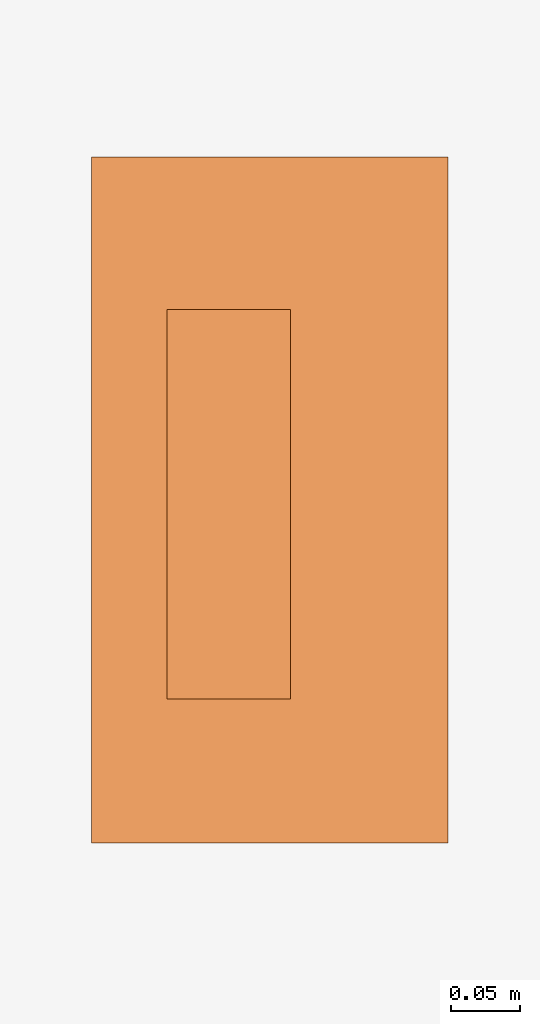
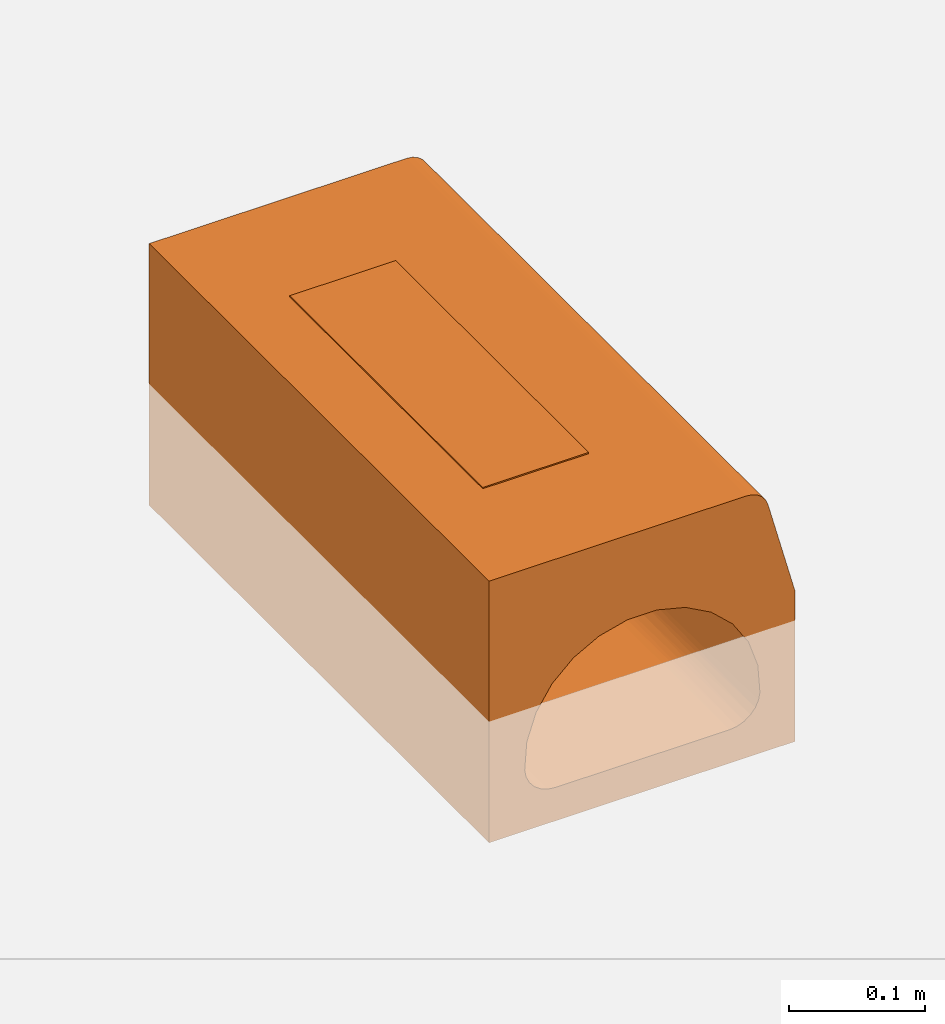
# One storey, part 2 of 2: 1 proxy.
"""IFC2X3 building model written with IfcOpenShell, lengths in millimetres."""

from ifc_helpers import new_model, entity, si_unit, converted_unit, direction, frame, origin, place, context, subcontext, project, spatial, faceted_brep, source, transform, mapped, material, material_list, element, save


model = new_model("IFC2X3")

# Units and contexts
model_context = context("Model", 3, precision=1e-06, world=origin(), true_north=direction((2.0, 6.12303176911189e-17, 1.0)))
context_of_model = context(None, 3, precision=1e-06, world=origin(), true_north=direction((2.0, 6.12303176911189e-17, 1.0)))
body_context = subcontext(model_context, "Body", "Model", "MODEL_VIEW")
ifc_project = project(units=[si_unit("LENGTHUNIT", "METRE", prefix="MILLI"), si_unit("AREAUNIT", "SQUARE_METRE", prefix="MILLI"), si_unit("VOLUMEUNIT", "CUBIC_METRE", prefix="MILLI"), converted_unit("PLANEANGLEUNIT", "DEGREE", entity("IfcRatioMeasure", 0.0174532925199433), si_unit("PLANEANGLEUNIT", "RADIAN"), dimensions=[0, 0, 0, 0, 0, 0, 0]), si_unit("TIMEUNIT", "SECOND")], contexts=[model_context, context_of_model])

# Site, building, storey
site_placement = place(None, origin())
site = spatial("IfcSite", under=ifc_project, at=site_placement, Name="Default", CompositionType="ELEMENT")
building_placement = place(site_placement, origin())
building = spatial("IfcBuilding", under=site, at=building_placement, CompositionType="ELEMENT")
storey_placement = place(building_placement, origin())
storey = spatial("IfcBuildingStorey", under=building, at=storey_placement, Name="Level 1", CompositionType="ELEMENT", Elevation=0.0)

# Proxy
ifc_material_1 = material(Name="ACO Polymer Concrete.")
ifc_material_2 = material(Name="Iron, Cast")
ifc_material_list = material_list([ifc_material_1, ifc_material_2])
shared_shape = source(origin(), body_context, "Body", "Brep", [
    faceted_brep([(-129.999990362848, 0.0, -110.0), (-98.5293847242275, 0.0, -61.8360012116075), (-99.7015120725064, 0.0, -55.3829147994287), (-95.7797163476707, 0.0, -67.7904558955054), (-97.9151044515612, 0.0, -30.5139849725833), (-129.999990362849, 0.0, 125.0), (-73.7383160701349, 0.0, -80.0), (-80.2446122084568, 0.0, -79.1727652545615), (130.000009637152, 0.0, -110.0), (-91.6274778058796, 0.0, -72.8673764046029), (-86.3368903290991, 0.0, -76.7437008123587), (-90.035161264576, 0.0, -6.85893438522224), (-76.5510258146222, 0.0, 14.1132618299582), (-58.3000609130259, 0.0, 31.1002333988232), (-36.4156487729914, 0.0, 43.0470919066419), (-12.2568081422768, 0.0, 49.2119392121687), (12.6762005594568, 0.0, 49.2119392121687), (88.6258776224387, 0.0, 125.0), (58.7194533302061, 0.0, 31.1002333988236), (106.978468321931, 0.0, 110.917561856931), (36.8350411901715, 0.0, 43.0470919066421), (80.6640046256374, 0.0, -79.1727652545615), (74.1577084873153, 0.0, -80.0), (92.0468702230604, 0.0, -72.8673764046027), (86.7562827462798, 0.0, -76.7437008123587), (96.1991087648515, 0.0, -67.7904558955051), (98.9487771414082, 0.0, -61.836001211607), (100.120904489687, 0.0, -55.382914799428), (130.000009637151, 0.0, 25.0), (98.3344968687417, 0.0, -30.5139849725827), (93.5434394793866, 0.0, 124.352590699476), (105.080360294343, 0.0, 115.499999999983), (76.9704182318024, 0.0, 14.1132618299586), (90.4545536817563, 0.0, -6.8589343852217), (102.060906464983, 0.0, 119.435028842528), (98.1258776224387, 0.0, 122.454482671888), (130.000009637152, 500.0, -110.0), (98.9487771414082, 500.0, -61.836001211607), (100.120904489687, 500.0, -55.382914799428), (130.000009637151, 500.0, 25.0), (96.1991087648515, 500.0, -67.7904558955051), (98.3344968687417, 500.0, -30.5139849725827), (74.1577084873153, 500.0, -80.0), (80.6640046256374, 500.0, -79.1727652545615), (92.0468702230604, 500.0, -72.8673764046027), (86.7562827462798, 500.0, -76.7437008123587), (-73.7383160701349, 500.0, -80.0), (-129.999990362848, 500.0, -110.0), (105.080360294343, 500.0, 115.499999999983), (106.978468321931, 500.0, 110.917561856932), (93.5434394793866, 500.0, 124.352590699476), (98.1258776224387, 500.0, 122.454482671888), (102.060906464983, 500.0, 119.435028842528), (58.7194533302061, 500.0, 31.1002333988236), (76.9704182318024, 500.0, 14.1132618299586), (36.8350411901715, 500.0, 43.0470919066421), (88.6258776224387, 500.0, 125.0), (90.4545536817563, 500.0, -6.8589343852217), (-80.2446122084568, 500.0, -79.1727652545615), (-91.6274778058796, 500.0, -72.8673764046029), (-86.3368903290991, 500.0, -76.7437008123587), (-95.7797163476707, 500.0, -67.7904558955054), (-98.5293847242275, 500.0, -61.8360012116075), (-99.7015120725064, 500.0, -55.3829147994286), (-97.9151044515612, 500.0, -30.5139849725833), (-129.999990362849, 500.0, 125.0), (-12.2568081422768, 500.0, 49.2119392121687), (12.6762005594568, 500.0, 49.2119392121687), (-76.5510258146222, 500.0, 14.1132618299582), (-90.035161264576, 500.0, -6.85893438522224), (-36.4156487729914, 500.0, 43.0470919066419), (-58.3000609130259, 500.0, 31.1002333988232), (88.6258776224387, 152.199845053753, 125.0), (88.6258776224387, 304.399690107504, 125.0), (-53.1259204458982, 105.764952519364, -110.0), (-47.6313972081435, 92.5000000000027, -110.0), (-55.0, 120.0, -110.0), (-38.8908729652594, 81.1091270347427, -110.0), (-27.4999999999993, 72.3686027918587, -110.0), (-14.2350474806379, 66.8740795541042, -110.0), (0.0, 65.0, -110.0), (-53.1259204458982, 134.235047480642, -110.0), (-53.1259204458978, 365.764952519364, -110.0), (-47.6313972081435, 147.500000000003, -110.0), (-47.6313972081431, 352.500000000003, -110.0), (-38.890872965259, 341.109127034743, -110.0), (-27.4999999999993, 167.631397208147, -110.0), (-38.8908729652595, 158.890872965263, -110.0), (-27.4999999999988, 332.368602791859, -110.0), (0.0, 175.0, -110.0), (-14.2350474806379, 173.125920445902, -110.0), (-14.2350474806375, 326.874079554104, -110.0), (0.0, 325.0, -110.0), (14.2350474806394, 66.8740795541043, -110.0), (27.5000000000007, 72.368602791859, -110.0), (38.8908729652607, 81.1091270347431, -110.0), (47.6313972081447, 92.5000000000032, -110.0), (53.1259204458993, 105.764952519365, -110.0), (27.5000000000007, 167.631397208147, -110.0), (14.2350474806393, 173.125920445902, -110.0), (27.5000000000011, 332.368602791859, -110.0), (38.8908729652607, 158.890872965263, -110.0), (38.8908729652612, 341.109127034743, -110.0), (55.0, 120.0, -110.0), (53.1259204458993, 134.235047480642, -110.0), (53.1259204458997, 365.764952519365, -110.0), (47.6313972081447, 147.500000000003, -110.0), (47.6313972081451, 352.500000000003, -110.0), (14.2350474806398, 326.874079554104, -110.0), (-55.0, 380.0, -110.0), (-53.1259204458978, 394.235047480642, -110.0), (-47.6313972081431, 407.500000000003, -110.0), (-38.890872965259, 418.890872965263, -110.0), (-14.2350474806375, 433.125920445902, -110.0), (-27.4999999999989, 427.631397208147, -110.0), (0.0, 435.0, -110.0), (55.0, 380.0, -110.0), (14.2350474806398, 433.125920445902, -110.0), (27.5000000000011, 427.631397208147, -110.0), (53.1259204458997, 394.235047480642, -110.0), (47.6313972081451, 407.500000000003, -110.0), (38.8908729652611, 418.890872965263, -110.0), (106.978468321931, 423.900064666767, 110.917561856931), (100.192344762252, 383.807890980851, 121.073713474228), (103.699591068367, 348.576324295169, 117.566467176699), (105.66949189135, 104.875634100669, 114.39733366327), (103.699591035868, 151.423670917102, 117.566467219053), (95.8968628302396, 348.576326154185, 123.553711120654), (92.0249211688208, 364.149902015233, 124.693488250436), (92.644420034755, 238.971100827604, 124.570172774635), (105.523211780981, 238.971095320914, 114.687928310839), (106.978468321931, 304.399745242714, 110.917561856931), (105.802663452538, 364.149900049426, 114.12145482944), (100.192344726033, 116.192108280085, 121.07371350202), (102.995163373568, 249.99999804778, 118.430753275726), (96.9140184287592, 250.0, 123.096979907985), (100.192344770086, 249.999999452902, 121.073713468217), (88.6258776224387, 423.900077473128, 125.0), (106.978468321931, 152.199872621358, 110.917561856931), (95.8968627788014, 151.423674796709, 123.55371114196), (92.3258671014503, 104.875635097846, 124.636257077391), (-38.8908729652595, 158.890872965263, -100.0), (-27.4999999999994, 167.631397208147, -100.0), (-14.235047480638, 173.125920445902, -100.0), (0.0, 175.0, -100.0), (-55.0, 120.0, -100.0), (-53.1259204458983, 134.235047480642, -100.0), (-47.6313972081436, 147.500000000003, -100.0), (-53.1259204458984, 105.764952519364, -100.0), (14.2350474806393, 173.125920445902, -100.0), (53.1259204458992, 134.235047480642, -100.0), (27.5000000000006, 167.631397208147, -100.0), (38.8908729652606, 158.890872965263, -100.0), (47.6313972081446, 147.500000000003, -100.0), (-38.8908729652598, 81.109127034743, -100.0), (-47.6313972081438, 92.5000000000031, -100.0), (27.5000000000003, 72.3686027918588, -100.0), (0.0, 65.0, -100.0), (-14.2350474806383, 66.8740795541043, -100.0), (-27.4999999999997, 72.3686027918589, -100.0), (14.2350474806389, 66.8740795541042, -100.0), (55.0, 120.0, -100.0), (53.1259204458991, 105.764952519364, -100.0), (47.6313972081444, 92.5000000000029, -100.0), (38.8908729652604, 81.1091270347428, -100.0), (-38.8908729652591, 418.890872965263, -100.0), (-27.499999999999, 427.631397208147, -100.0), (-14.2350474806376, 433.125920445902, -100.0), (0.0, 435.0, -100.0), (-55.0, 380.0, -100.0), (-53.1259204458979, 394.235047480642, -100.0), (-47.6313972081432, 407.500000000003, -100.0), (53.1259204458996, 394.235047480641, -100.0), (47.6313972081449, 352.500000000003, -100.0), (14.2350474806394, 326.874079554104, -100.0), (14.2350474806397, 433.125920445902, -100.0), (27.500000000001, 427.631397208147, -100.0), (38.8908729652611, 418.890872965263, -100.0), (47.6313972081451, 407.500000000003, -100.0), (-47.6313972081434, 352.500000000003, -100.0), (-27.4999999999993, 332.368602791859, -100.0), (-38.8908729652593, 341.109127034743, -100.0), (0.0, 325.0, -100.0), (-14.2350474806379, 326.874079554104, -100.0), (55.0, 380.0, -100.0), (53.1259204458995, 365.764952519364, -100.0), (38.8908729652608, 341.109127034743, -100.0), (27.5000000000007, 332.368602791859, -100.0), (-53.125920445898, 365.764952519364, -100.0), (97.7624520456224, 250.000001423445, -64.9002789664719), (94.2837171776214, 187.076118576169, -70.4603698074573), (94.2837171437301, 360.069268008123, -70.460369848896), (89.5242950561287, 312.923882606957, -74.9730307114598), (99.3456515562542, 336.127479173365, -60.4472881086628), (100.120904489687, 250.0, -55.382914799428), (89.524295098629, 139.930732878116, -74.9730306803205), (99.3943923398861, 166.384084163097, -60.2537819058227), (83.7870442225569, 250.0, -78.1511054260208), (79.2561479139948, 163.872524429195, -79.4952135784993), (79.0603230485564, 333.615920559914, -79.5335929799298), (74.1577084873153, 250.0, -80.0), (-73.7383160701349, 250.0, -80.0), (-83.3676518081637, 250.0, -78.1511054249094), (-93.8643247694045, 139.930732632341, -70.4603697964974), (-97.3430596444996, 250.0, -64.9002789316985), (-89.1049026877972, 187.076118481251, -74.9730306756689), (-89.1049026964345, 360.069267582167, -74.9730306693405), (-93.8643247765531, 312.923881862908, -70.4603697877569), (-78.6409306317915, 166.384079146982, -79.53359297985), (-98.9749999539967, 333.615921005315, -60.2537817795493), (-78.836755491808, 336.127475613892, -79.4952135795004), (-98.9262591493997, 163.872524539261, -60.4472880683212), (-99.7015120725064, 250.0, -55.3829147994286)], [[[0, 1, 2]], [[1, 0, 3]], [[0, 2, 4, 5]], [[6, 7, 0, 8]], [[9, 3, 0]], [[10, 9, 0]], [[7, 10, 0]], [[11, 12, 5]], [[5, 13, 14]], [[13, 5, 12]], [[11, 5, 4]], [[15, 16, 17, 5]], [[18, 19, 20]], [[14, 15, 5]], [[17, 16, 20, 19]], [[21, 22, 8]], [[23, 24, 8]], [[21, 8, 24]], [[25, 8, 26]], [[8, 25, 23]], [[27, 26, 8, 28]], [[28, 29, 27]], [[22, 6, 8]], [[30, 17, 19, 31]], [[32, 33, 28]], [[18, 32, 28, 19]], [[31, 34, 35, 30]], [[33, 29, 28]], [[36, 37, 38, 39]], [[37, 36, 40]], [[39, 38, 41]], [[42, 43, 36]], [[44, 40, 36]], [[45, 44, 36]], [[43, 45, 36]], [[46, 42, 36, 47]], [[48, 49, 50, 51]], [[51, 52, 48]], [[53, 49, 39, 54]], [[49, 55, 56, 50]], [[54, 39, 57]], [[39, 41, 57]], [[58, 46, 47]], [[59, 60, 47]], [[58, 47, 60]], [[61, 47, 62]], [[47, 61, 59]], [[63, 62, 47]], [[64, 63, 47, 65]], [[53, 55, 49]], [[66, 65, 56, 67]], [[68, 69, 65]], [[70, 71, 65]], [[65, 71, 68]], [[70, 65, 66]], [[69, 64, 65]], [[67, 56, 55]], [[5, 17, 72, 73]], [[56, 65, 5]], [[47, 0, 5, 65]], [[0, 74, 75]], [[74, 0, 76]], [[0, 75, 77]], [[78, 79, 0]], [[77, 78, 0]], [[0, 79, 80]], [[81, 76, 0, 82]], [[83, 81, 84, 85]], [[86, 87, 88]], [[89, 90, 91, 92]], [[90, 86, 88, 91]], [[87, 83, 85, 88]], [[93, 94, 8]], [[80, 93, 8, 0]], [[8, 95, 96]], [[95, 8, 94]], [[8, 96, 97]], [[98, 99, 100]], [[101, 98, 100, 102]], [[97, 103, 8]], [[104, 105, 8, 103]], [[106, 101, 102, 107]], [[104, 106, 107, 105]], [[99, 89, 108, 100]], [[84, 81, 82]], [[109, 47, 110]], [[47, 109, 82, 0]], [[110, 47, 111]], [[112, 111, 47]], [[113, 114, 47]], [[112, 47, 114]], [[115, 113, 47, 36]], [[105, 116, 36, 8]], [[117, 115, 36]], [[118, 117, 36]], [[119, 120, 36]], [[121, 36, 120]], [[36, 121, 118]], [[119, 36, 116]], [[92, 108, 89]], [[39, 28, 8, 36]], [[49, 122, 28, 39]], [[52, 123, 124]], [[31, 125, 126]], [[127, 128, 129]], [[130, 131, 132]], [[48, 52, 124]], [[132, 48, 124]], [[133, 126, 134]], [[51, 50, 127]], [[52, 51, 123]], [[31, 126, 34]], [[135, 123, 127]], [[48, 122, 49]], [[136, 133, 134, 123]], [[50, 56, 137]], [[19, 138, 125]], [[35, 139, 30]], [[128, 137, 73]], [[133, 139, 35]], [[139, 140, 30]], [[35, 34, 133]], [[136, 123, 135, 133]], [[72, 140, 129]], [[138, 131, 130]], [[127, 123, 51]], [[30, 140, 17]], [[126, 133, 34]], [[48, 132, 122]], [[131, 122, 132]], [[124, 134, 130]], [[124, 130, 132]], [[130, 126, 125]], [[129, 128, 73]], [[137, 128, 50]], [[50, 128, 127]], [[72, 129, 73]], [[129, 139, 135]], [[129, 135, 127]], [[133, 135, 139]], [[19, 125, 31]], [[130, 125, 138]], [[130, 134, 126]], [[123, 134, 124]], [[129, 140, 139]], [[17, 140, 72]], [[141, 142, 143, 144]], [[145, 146, 147, 148]], [[149, 147, 141, 144]], [[150, 148, 147, 149]], [[150, 149, 151, 152]], [[153, 150, 152]], [[154, 155, 148, 156]], [[157, 158, 159, 154]], [[157, 154, 156, 160]], [[161, 162, 163, 150]], [[163, 164, 156, 148]], [[148, 150, 163]], [[150, 104, 103, 161]], [[153, 106, 104, 150]], [[151, 98, 101, 152]], [[152, 101, 106, 153]], [[149, 99, 98, 151]], [[99, 149, 144, 89]], [[143, 90, 89, 144]], [[142, 86, 90, 143]], [[147, 83, 87, 141]], [[141, 87, 86, 142]], [[146, 81, 83, 147]], [[81, 146, 145, 76]], [[148, 74, 76, 145]], [[155, 75, 74, 148]], [[159, 78, 77, 154]], [[154, 77, 75, 155]], [[158, 79, 78, 159]], [[79, 158, 157, 80]], [[160, 93, 80, 157]], [[156, 94, 93, 160]], [[163, 96, 95, 164]], [[164, 95, 94, 156]], [[162, 97, 96, 163]], [[97, 162, 161, 103]], [[165, 166, 167, 168]], [[165, 169, 170, 171]], [[165, 172, 173, 174]], [[172, 175, 176, 177]], [[165, 168, 175, 172]], [[178, 172, 177]], [[179, 169, 165, 180]], [[181, 179, 180]], [[182, 183, 180, 174]], [[174, 180, 165]], [[184, 185, 173, 172]], [[186, 187, 174, 173]], [[169, 179, 188]], [[172, 119, 116, 184]], [[178, 120, 119, 172]], [[176, 118, 121, 177]], [[177, 121, 120, 178]], [[175, 117, 118, 176]], [[117, 175, 168, 115]], [[167, 113, 115, 168]], [[166, 114, 113, 167]], [[171, 111, 112, 165]], [[165, 112, 114, 166]], [[170, 110, 111, 171]], [[110, 170, 169, 109]], [[188, 82, 109, 169]], [[179, 84, 82, 188]], [[180, 88, 85, 181]], [[181, 85, 84, 179]], [[183, 91, 88, 180]], [[91, 183, 182, 92]], [[174, 108, 92, 182]], [[187, 100, 108, 174]], [[173, 107, 102, 186]], [[186, 102, 100, 187]], [[185, 105, 107, 173]], [[105, 185, 184, 116]], [[25, 26, 189]], [[190, 191, 192]], [[40, 191, 189]], [[25, 189, 190]], [[38, 193, 194]], [[192, 195, 190]], [[190, 23, 25]], [[26, 196, 189]], [[189, 37, 40]], [[26, 27, 196]], [[191, 190, 189]], [[24, 195, 197]], [[21, 24, 197]], [[44, 192, 191]], [[198, 197, 199]], [[198, 200, 22]], [[44, 45, 192]], [[45, 197, 192]], [[44, 191, 40]], [[45, 43, 197]], [[43, 199, 197]], [[195, 24, 23]], [[193, 189, 196]], [[195, 192, 197]], [[195, 23, 190]], [[43, 42, 199]], [[37, 189, 193]], [[194, 196, 27]], [[37, 193, 38]], [[193, 196, 194]], [[21, 197, 198]], [[200, 199, 42]], [[21, 198, 22]], [[198, 199, 200]], [[6, 22, 200, 42]], [[42, 46, 201, 6]], [[10, 7, 202]], [[3, 203, 204]], [[205, 206, 207, 203]], [[10, 202, 205]], [[205, 9, 10]], [[202, 7, 208]], [[62, 63, 209]], [[201, 46, 210]], [[202, 58, 60]], [[6, 208, 7]], [[206, 205, 202]], [[1, 3, 204]], [[203, 9, 205]], [[59, 207, 206]], [[211, 212, 2]], [[203, 3, 9]], [[61, 204, 207]], [[210, 202, 208]], [[61, 62, 204]], [[62, 209, 204]], [[59, 206, 60]], [[211, 204, 209]], [[203, 207, 204]], [[60, 206, 202]], [[59, 61, 207]], [[58, 202, 210]], [[201, 208, 6]], [[58, 210, 46]], [[210, 208, 201]], [[1, 204, 211]], [[212, 209, 63]], [[1, 211, 2]], [[211, 209, 212]], [[4, 2, 212, 63]], [[11, 4, 64, 69]], [[14, 13, 71, 70]], [[13, 12, 68, 71]], [[12, 11, 69, 68]], [[15, 14, 70, 66]], [[63, 64, 4]], [[16, 15, 66, 67]], [[20, 16, 67, 55]], [[18, 20, 55, 53]], [[29, 33, 57, 41]], [[33, 32, 54, 57]], [[32, 18, 53, 54]], [[27, 29, 41]], [[41, 38, 194, 27]], [[5, 73, 137, 56]], [[28, 122, 131, 138]], [[28, 138, 19]]]),
    faceted_brep([(-74.6999999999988, 105.0, 126.144067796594), (-74.6999999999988, 105.0, 123.263731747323), (15.3048760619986, 105.0, 123.263731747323), (15.3048760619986, 105.0, 126.144067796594), (15.3048760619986, 389.0, 126.144067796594), (15.3048760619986, 389.0, 123.263731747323), (-74.6999999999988, 389.0, 123.263731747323), (-74.6999999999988, 389.0, 126.144067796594)], [[[0, 1, 2, 3]], [[4, 5, 6, 7]], [[1, 6, 5, 2]], [[7, 6, 1, 0]], [[5, 4, 3, 2]], [[3, 4, 7, 0]]]),
])
proxy_placement = place(storey_placement, frame((-15229.1541432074, -316.659250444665, 0.0)))
element("IfcBuildingElementProxy", 1, at=proxy_placement, inside=storey, material=ifc_material_list, Name="Civil-Drainage-Channel-ACO-KerbDrain-KD200:T0130 - Access unit - 500mm LG - 235mm High:T0130 - Access unit - 500mm LG - 235mm High", ObjectType="T0130 - Access unit - 500mm LG - 235mm High", CompositionType="ELEMENT", context=body_context, shape_type="MappedRepresentation", body=[
    mapped(shared_shape, transform((0.0, 0.0, 0.0), scale=1.0)),
])

save(model, "model.ifc")
